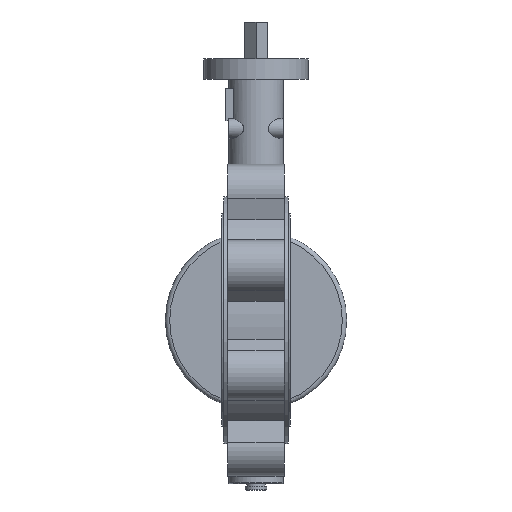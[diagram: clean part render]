
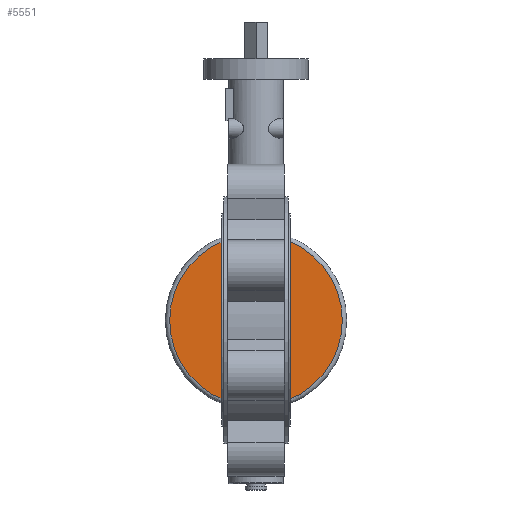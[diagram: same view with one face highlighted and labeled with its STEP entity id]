
A CAD part, front view. The second image highlights one B-rep face of the part: STEP entity #5551.
In plain terms, the highlighted planar face has unit normal (0, -1, 0).
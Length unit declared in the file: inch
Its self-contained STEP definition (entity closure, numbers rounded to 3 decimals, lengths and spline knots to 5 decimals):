
#5432=CARTESIAN_POINT('',(0.93004,-0.15,5.52473));
#5433=DIRECTION('',(0.,-1.,0.));
#5434=DIRECTION('',(0.0,0.0,-1.0));
#5435=AXIS2_PLACEMENT_3D('',#5432,#5433,#5434);
#5436=PLANE('',#5435);
#5437=CARTESIAN_POINT('',(2.01905,-0.14971,2.81615));
#5438=VERTEX_POINT('',#5437);
#5439=CARTESIAN_POINT('',(1.58816,-0.14983,2.81615));
#5440=VERTEX_POINT('',#5439);
#5441=CARTESIAN_POINT('',(2.01905,-0.14971,2.81615));
#5442=DIRECTION('',(-1.,0.,0.0));
#5443=VECTOR('',#5442,0.43089);
#5444=LINE('',#5441,#5443);
#5445=EDGE_CURVE('',#5438,#5440,#5444,.T.);
#5446=ORIENTED_EDGE('',*,*,#5445,.F.);
#5447=CARTESIAN_POINT('',(2.01905,-0.14971,8.23331));
#5448=VERTEX_POINT('',#5447);
#5449=CARTESIAN_POINT('',(0.96127,-0.14999,5.52473));
#5450=DIRECTION('',(0.,1.,0.));
#5451=DIRECTION('',(1.,0.,0.));
#5452=AXIS2_PLACEMENT_3D('',#5449,#5450,#5451);
#5453=CIRCLE('',#5452,2.9078);
#5454=EDGE_CURVE('',#5448,#5438,#5453,.T.);
#5455=ORIENTED_EDGE('',*,*,#5454,.F.);
#5456=CARTESIAN_POINT('',(1.58816,-0.14983,8.23331));
#5457=VERTEX_POINT('',#5456);
#5458=CARTESIAN_POINT('',(1.58816,-0.14983,8.23331));
#5459=DIRECTION('',(1.,0.,0.));
#5460=VECTOR('',#5459,0.43089);
#5461=LINE('',#5458,#5460);
#5462=EDGE_CURVE('',#5457,#5448,#5461,.T.);
#5463=ORIENTED_EDGE('',*,*,#5462,.F.);
#5464=CARTESIAN_POINT('',(1.58816,-0.14983,7.13331));
#5465=VERTEX_POINT('',#5464);
#5466=CARTESIAN_POINT('',(1.58816,-0.14983,8.23331));
#5467=DIRECTION('',(0.0,0.0,-1.0));
#5468=VECTOR('',#5467,1.1);
#5469=LINE('',#5466,#5468);
#5470=EDGE_CURVE('',#5457,#5465,#5469,.T.);
#5471=ORIENTED_EDGE('',*,*,#5470,.T.);
#5472=CARTESIAN_POINT('',(0.27192,-0.15017,7.13331));
#5473=VERTEX_POINT('',#5472);
#5474=CARTESIAN_POINT('',(1.58816,-0.14983,7.13331));
#5475=CARTESIAN_POINT('',(0.93004,-0.15,6.78779));
#5476=CARTESIAN_POINT('',(0.27192,-0.15017,7.13331));
#5484=(BOUNDED_CURVE()B_SPLINE_CURVE(2,(#5474,#5475,#5476),.UNSPECIFIED.,.F.,.U.)B_SPLINE_CURVE_WITH_KNOTS((3,3),(0.0,1.43254),.UNSPECIFIED.)CURVE()GEOMETRIC_REPRESENTATION_ITEM()RATIONAL_B_SPLINE_CURVE((1.0,4.5,1.0))REPRESENTATION_ITEM(''));
#5485=EDGE_CURVE('',#5465,#5473,#5484,.T.);
#5486=ORIENTED_EDGE('',*,*,#5485,.T.);
#5487=CARTESIAN_POINT('',(0.27192,-0.15017,8.23331));
#5488=VERTEX_POINT('',#5487);
#5489=CARTESIAN_POINT('',(0.27192,-0.15017,7.13331));
#5490=DIRECTION('',(0.0,0.0,1.0));
#5491=VECTOR('',#5490,1.1);
#5492=LINE('',#5489,#5491);
#5493=EDGE_CURVE('',#5473,#5488,#5492,.T.);
#5494=ORIENTED_EDGE('',*,*,#5493,.T.);
#5495=CARTESIAN_POINT('',(-0.15897,-0.15029,8.23331));
#5496=VERTEX_POINT('',#5495);
#5497=CARTESIAN_POINT('',(-0.15897,-0.15029,8.23331));
#5498=DIRECTION('',(1.,0.,0.));
#5499=VECTOR('',#5498,0.43089);
#5500=LINE('',#5497,#5499);
#5501=EDGE_CURVE('',#5496,#5488,#5500,.T.);
#5502=ORIENTED_EDGE('',*,*,#5501,.F.);
#5503=CARTESIAN_POINT('',(-0.15897,-0.15029,2.81615));
#5504=VERTEX_POINT('',#5503);
#5505=CARTESIAN_POINT('',(0.89881,-0.15001,5.52473));
#5506=DIRECTION('',(0.,1.,0.));
#5507=DIRECTION('',(-1.,0.,0.));
#5508=AXIS2_PLACEMENT_3D('',#5505,#5506,#5507);
#5509=CIRCLE('',#5508,2.9078);
#5510=EDGE_CURVE('',#5504,#5496,#5509,.T.);
#5511=ORIENTED_EDGE('',*,*,#5510,.F.);
#5512=CARTESIAN_POINT('',(0.27192,-0.15017,2.81615));
#5513=VERTEX_POINT('',#5512);
#5514=CARTESIAN_POINT('',(0.27192,-0.15017,2.81615));
#5515=DIRECTION('',(-1.,0.,0.0));
#5516=VECTOR('',#5515,0.43089);
#5517=LINE('',#5514,#5516);
#5518=EDGE_CURVE('',#5513,#5504,#5517,.T.);
#5519=ORIENTED_EDGE('',*,*,#5518,.F.);
#5520=CARTESIAN_POINT('',(0.27192,-0.15017,3.91615));
#5521=VERTEX_POINT('',#5520);
#5522=CARTESIAN_POINT('',(0.27192,-0.15017,2.81615));
#5523=DIRECTION('',(0.0,0.0,1.0));
#5524=VECTOR('',#5523,1.1);
#5525=LINE('',#5522,#5524);
#5526=EDGE_CURVE('',#5513,#5521,#5525,.T.);
#5527=ORIENTED_EDGE('',*,*,#5526,.T.);
#5528=CARTESIAN_POINT('',(1.58816,-0.14983,3.91615));
#5529=VERTEX_POINT('',#5528);
#5530=CARTESIAN_POINT('',(0.27192,-0.15017,3.91615));
#5531=CARTESIAN_POINT('',(0.93004,-0.15,4.26167));
#5532=CARTESIAN_POINT('',(1.58816,-0.14983,3.91615));
#5540=(BOUNDED_CURVE()B_SPLINE_CURVE(2,(#5530,#5531,#5532),.UNSPECIFIED.,.F.,.U.)B_SPLINE_CURVE_WITH_KNOTS((3,3),(0.0,1.43254),.UNSPECIFIED.)CURVE()GEOMETRIC_REPRESENTATION_ITEM()RATIONAL_B_SPLINE_CURVE((1.0,4.5,1.0))REPRESENTATION_ITEM(''));
#5541=EDGE_CURVE('',#5521,#5529,#5540,.T.);
#5542=ORIENTED_EDGE('',*,*,#5541,.T.);
#5543=CARTESIAN_POINT('',(1.58816,-0.14983,3.91615));
#5544=DIRECTION('',(0.0,0.0,-1.0));
#5545=VECTOR('',#5544,1.1);
#5546=LINE('',#5543,#5545);
#5547=EDGE_CURVE('',#5529,#5440,#5546,.T.);
#5548=ORIENTED_EDGE('',*,*,#5547,.T.);
#5549=EDGE_LOOP('',(#5446,#5455,#5463,#5471,#5486,#5494,#5502,#5511,#5519,#5527,#5542,#5548));
#5550=FACE_OUTER_BOUND('',#5549,.T.);
#5551=ADVANCED_FACE('',(#5550),#5436,.T.);
